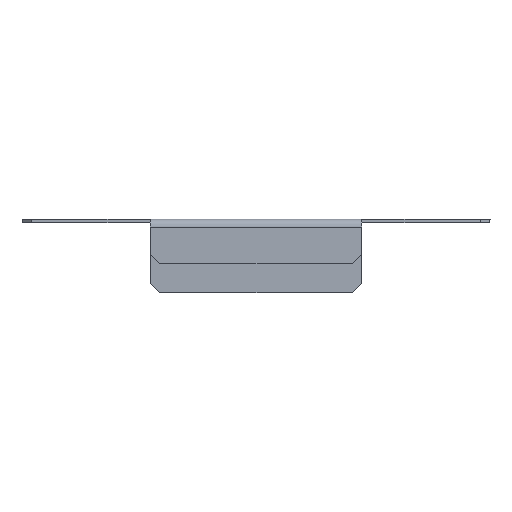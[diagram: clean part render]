
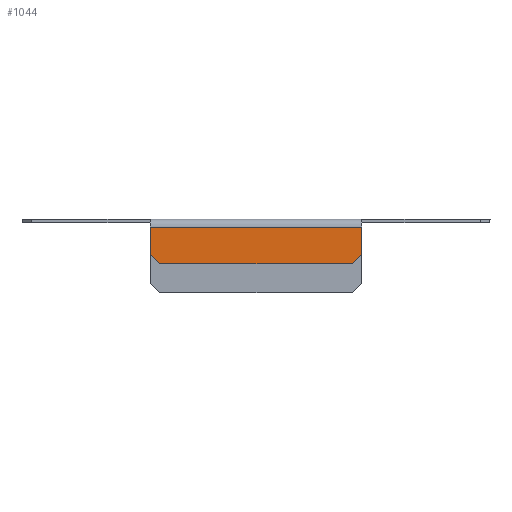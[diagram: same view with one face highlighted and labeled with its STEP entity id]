
A CAD part, front view. The second image highlights one B-rep face of the part: STEP entity #1044.
In plain terms, the highlighted planar face has unit normal (0, -1, 0).
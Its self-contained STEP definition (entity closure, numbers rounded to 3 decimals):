
#19 = VECTOR ( 'NONE', #827, 1000. ) ;
#91 = CARTESIAN_POINT ( 'NONE',  ( 35.25, -49.5, -16.3 ) ) ;
#94 = CARTESIAN_POINT ( 'NONE',  ( -35.25, -49.5, -16.3 ) ) ;
#95 = CARTESIAN_POINT ( 'NONE',  ( 38.75, -49.5, -12.8 ) ) ;
#101 = CARTESIAN_POINT ( 'NONE',  ( -38.75, -49.5, -12.8 ) ) ;
#121 = CARTESIAN_POINT ( 'NONE',  ( -38.75, -49.5, -2.9 ) ) ;
#122 = CARTESIAN_POINT ( 'NONE',  ( 38.75, -49.5, -2.9 ) ) ;
#194 = VERTEX_POINT ( 'NONE', #121 ) ;
#195 = VERTEX_POINT ( 'NONE', #122 ) ;
#216 = VERTEX_POINT ( 'NONE', #101 ) ;
#221 = VERTEX_POINT ( 'NONE', #94 ) ;
#222 = VERTEX_POINT ( 'NONE', #95 ) ;
#224 = VERTEX_POINT ( 'NONE', #91 ) ;
#230 = EDGE_LOOP ( 'NONE', ( #1350, #1327, #1349, #440, #441, #439 ) ) ;
#439 = ORIENTED_EDGE ( 'NONE', *, *, #1168, .T. ) ;
#440 = ORIENTED_EDGE ( 'NONE', *, *, #1021, .F. ) ;
#441 = ORIENTED_EDGE ( 'NONE', *, *, #1033, .F. ) ;
#519 = CARTESIAN_POINT ( 'NONE',  ( 38.75, -49.5, -27. ) ) ;
#520 = DIRECTION ( 'NONE',  ( 0., 1., 0. ) ) ;
#523 = DIRECTION ( 'NONE',  ( 0., 0., 1. ) ) ;
#527 = PLANE ( 'NONE',  #1199 ) ;
#563 = LINE ( 'NONE', #568, #1191 ) ;
#568 = CARTESIAN_POINT ( 'NONE',  ( 38.75, -49.5, -12.8 ) ) ;
#572 = CARTESIAN_POINT ( 'NONE',  ( 38.75, -49.5, -16.3 ) ) ;
#574 = DIRECTION ( 'NONE',  ( -1., 0., 0. ) ) ;
#575 = LINE ( 'NONE', #572, #1189 ) ;
#576 = DIRECTION ( 'NONE',  ( 0.707, 0., 0.707 ) ) ;
#577 = LINE ( 'NONE', #581, #1203 ) ;
#580 = DIRECTION ( 'NONE',  ( 0., 0., 1. ) ) ;
#581 = CARTESIAN_POINT ( 'NONE',  ( -38.75, -49.5, -27. ) ) ;
#592 = LINE ( 'NONE', #600, #1250 ) ;
#599 = DIRECTION ( 'NONE',  ( 0., 0., -1. ) ) ;
#600 = CARTESIAN_POINT ( 'NONE',  ( 38.75, -49.5, -1.4 ) ) ;
#629 = LINE ( 'NONE', #633, #1272 ) ;
#632 = DIRECTION ( 'NONE',  ( 1., 0., 0. ) ) ;
#633 = CARTESIAN_POINT ( 'NONE',  ( 38.75, -49.5, -2.9 ) ) ;
#805 = LINE ( 'NONE', #826, #19 ) ;
#826 = CARTESIAN_POINT ( 'NONE',  ( -35.25, -49.5, -16.3 ) ) ;
#827 = DIRECTION ( 'NONE',  ( 0.707, 0., -0.707 ) ) ;
#1021 = EDGE_CURVE ( 'NONE', #194, #195, #629, .T. ) ;
#1029 = EDGE_CURVE ( 'NONE', #195, #222, #592, .T. ) ;
#1033 = EDGE_CURVE ( 'NONE', #216, #194, #577, .T. ) ;
#1034 = EDGE_CURVE ( 'NONE', #224, #222, #563, .T. ) ;
#1035 = EDGE_CURVE ( 'NONE', #224, #221, #575, .T. ) ;
#1044 = ADVANCED_FACE ( 'NONE', ( #1205 ), #527, .F. ) ;
#1168 = EDGE_CURVE ( 'NONE', #216, #221, #805, .T. ) ;
#1189 = VECTOR ( 'NONE', #574, 1000. ) ;
#1191 = VECTOR ( 'NONE', #576, 1000. ) ;
#1199 = AXIS2_PLACEMENT_3D ( 'NONE', #519, #520, #523 ) ;
#1203 = VECTOR ( 'NONE', #580, 1000. ) ;
#1205 = FACE_OUTER_BOUND ( 'NONE', #230, .T. ) ;
#1250 = VECTOR ( 'NONE', #599, 1000. ) ;
#1272 = VECTOR ( 'NONE', #632, 1000. ) ;
#1327 = ORIENTED_EDGE ( 'NONE', *, *, #1034, .T. ) ;
#1349 = ORIENTED_EDGE ( 'NONE', *, *, #1029, .F. ) ;
#1350 = ORIENTED_EDGE ( 'NONE', *, *, #1035, .F. ) ;
